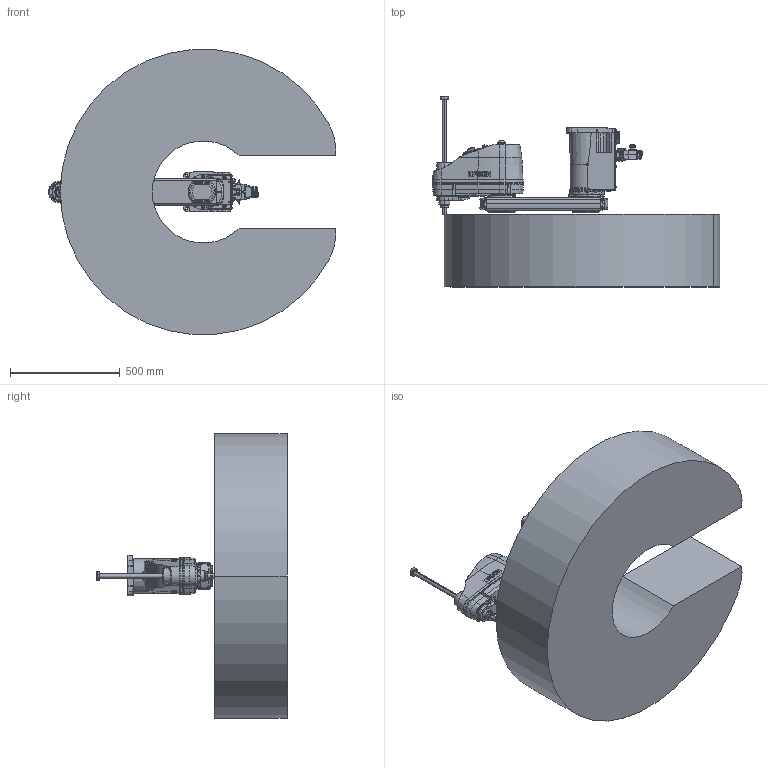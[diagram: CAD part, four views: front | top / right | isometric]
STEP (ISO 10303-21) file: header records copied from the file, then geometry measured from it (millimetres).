
FILE_DESCRIPTION (( 'STEP AP214' ), '1' );
FILE_NAME ('GX8-x653ER.STEP', '2025-03-26T16:57:43', ( '' ), ( '' ), 'SwSTEP 2.0', 'SolidWorks 2020', '' );
FILE_SCHEMA (( 'AUTOMOTIVE_DESIGN' ));
Length unit declared in the file: millimetre
Products named in the file (8): _GX8-26-1-B_WS; _B652CR_; _B452S_BASE; _Angle-B; _B453SZA; GX8-x653ER; _B452E_J2; _Straight-B
Assembly tree (7 placements, depth 2):
  GX8-x653ER
    _B452S_BASE
    _B652CR_
    _B452E_J2
    _B453SZA
    _Straight-B
    _Angle-B
    _GX8-26-1-B_WS
Bounding box: 1307.76 x 865 x 1295.99 mm (x, y, z)
Volume: 357739956.5 mm3; surface area: 5087349.2 mm2
Topology: 11 solids, 11 shells, 4353 faces, 10721 edges, 6882 vertices
Faces by surface type: plane 1775, cylinder 1703, cone 613, torus 205, bspline 45, sphere 12
Entity records: 152399 total; most frequent: CARTESIAN_POINT 36840, DIRECTION 22136, ORIENTED_EDGE 21294, EDGE_CURVE 10647, AXIS2_PLACEMENT_3D 8476, VERTEX_POINT 6882, LINE 5184, VECTOR 5184
